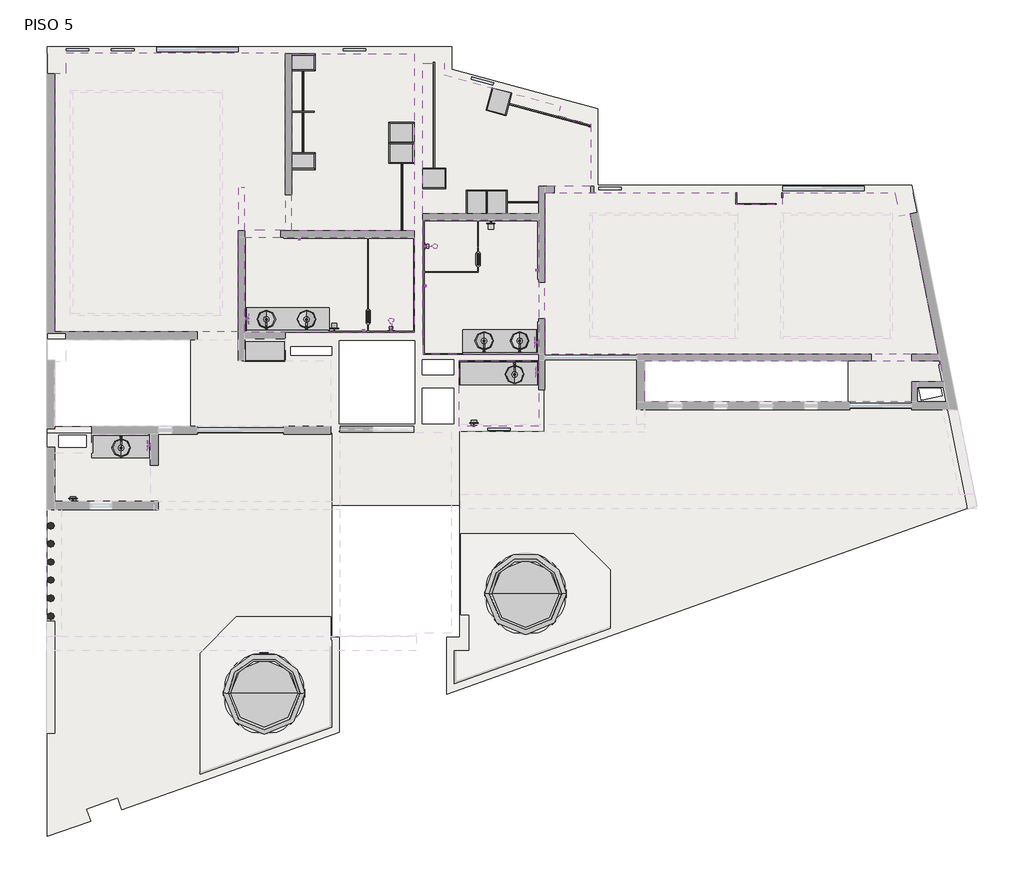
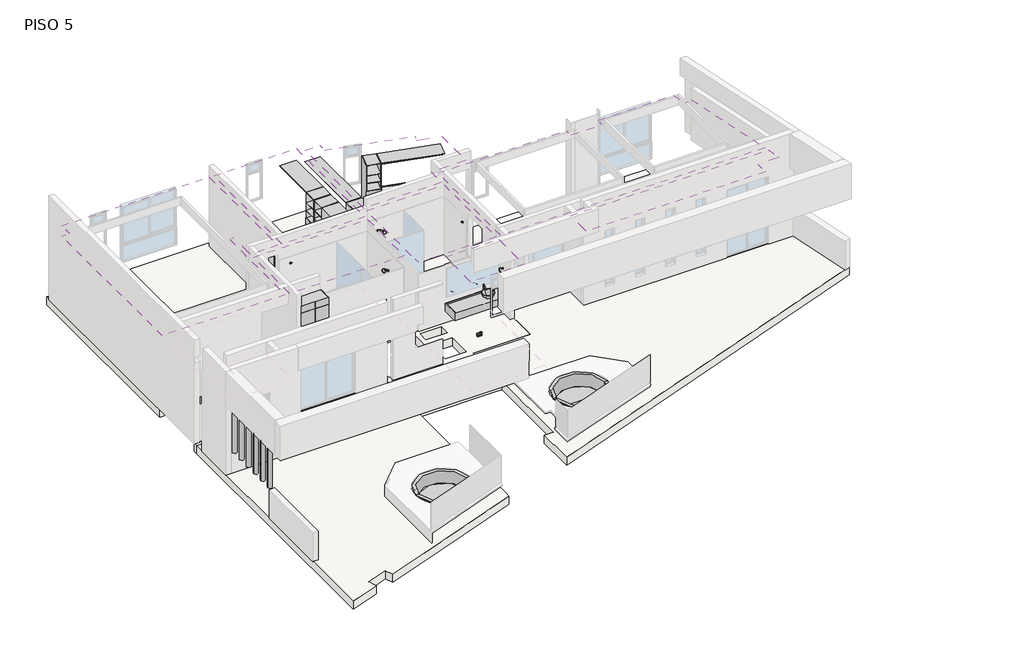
# One storey, part 3 of 3: 28 flow terminals, 14 furniture elements, 8 coverings, 6 columns, 2 slabs.
"""IFC4 building model written with IfcOpenShell, lengths in millimetres."""

from ifc_helpers import new_model, si_unit, point, frame, frame_2d, origin, place, context, project, spatial, polyline, circle_curve, trimmed, segment, composite_curve, outline, extrude, faceted_brep, transform, mapped, element, save
from components import flow_terminal_a2814962, flow_terminal_5cc0e8a1, flow_terminal_a7820e30, flow_terminal_68213279, flow_terminal_4524fc21, flow_terminal_6c50e432, flow_terminal_979eccb3, flow_terminal_bcb3a9d6, flow_terminal_02720d88, flow_terminal_52aebef2, flow_terminal_38a58ad7, flow_terminal_a64c8540, flow_terminal_974a7598, furniture_993b5d31, furniture_96e056cb, furniture_b757dfe6, furniture_a0b73d30, furniture_c1e19565, furniture_78e59265, cl09_7ac340ba, cl10a_closet_4632c41f, cl10b_closet_7e38ed4d, cl10c_closet_ebeeba07, cl11a_closet_d79f7d52, cl11b_closet_23228832, cl11c_closet_27dfa128, cl11d_closet_2c9b1320

model = new_model("IFC4")

# Units and contexts
model_context = context("Model", 3, world=origin())
ifc_project = project(units=[si_unit("LENGTHUNIT", "METRE", prefix="MILLI")], contexts=[model_context])

# Site, building, storey
site = spatial("IfcSite", under=ifc_project)
building = spatial("IfcBuilding", under=site)
storey = spatial("IfcBuildingStorey", under=building, Name="PISO 5", Elevation=15000.0)

# Columns
placement = place(None, origin())
element("IfcColumn", 1, ObjectType="M_Pilar redondo : Diámetro 152 mm", at=placement, inside=storey, context=model_context, shape_type="SweptSolid", body=[
    extrude(outline(composite_curve([segment(trimmed(circle_curve(frame_2d((34053.8589874, 25664.0112971)), 75.0), [point((34128.8589874, 25664.0112971))], [point((33978.8589874, 25664.0112971))], False, "CARTESIAN"), True, "CONTINUOUS"), segment(trimmed(circle_curve(frame_2d((34053.8589874, 25664.0112971)), 75.0), [point((33978.8589874, 25664.0112971))], [point((34053.8589874, 25739.0112971))], False, "CARTESIAN"), True, "CONTINUOUS"), segment(trimmed(circle_curve(frame_2d((34053.8589874, 25664.0112971)), 75.0), [point((34053.8589874, 25739.0112971))], [point((34128.8589874, 25664.0112971))], False, "CARTESIAN"), True, "CONTINUOUS")], self_intersect=False)), frame((0.0, 0.0, 16000.0), z_axis=(0.0, 0.0, 1.0), x_axis=(1.0, 0.0, 0.0)), (0.0, 0.0, 1.0), 1400.0),
])
element("IfcColumn", 2, ObjectType="M_Pilar redondo : Diámetro 152 mm", at=placement, inside=storey, context=model_context, shape_type="SweptSolid", body=[
    extrude(outline(composite_curve([segment(trimmed(circle_curve(frame_2d((34053.8589874, 26064.0112971)), 75.0), [point((34128.8589874, 26064.0112971))], [point((33978.8589874, 26064.0112971))], False, "CARTESIAN"), True, "CONTINUOUS"), segment(trimmed(circle_curve(frame_2d((34053.8589874, 26064.0112971)), 75.0), [point((33978.8589874, 26064.0112971))], [point((34053.8589874, 26139.0112971))], False, "CARTESIAN"), True, "CONTINUOUS"), segment(trimmed(circle_curve(frame_2d((34053.8589874, 26064.0112971)), 75.0), [point((34053.8589874, 26139.0112971))], [point((34128.8589874, 26064.0112971))], False, "CARTESIAN"), True, "CONTINUOUS")], self_intersect=False)), frame((0.0, 0.0, 16000.0), z_axis=(0.0, 0.0, 1.0), x_axis=(1.0, 0.0, 0.0)), (0.0, 0.0, 1.0), 1400.0),
])
element("IfcColumn", 3, ObjectType="M_Pilar redondo : Diámetro 152 mm", at=placement, inside=storey, context=model_context, shape_type="SweptSolid", body=[
    extrude(outline(composite_curve([segment(trimmed(circle_curve(frame_2d((34053.8589874, 26864.0112971)), 75.0), [point((34128.8589874, 26864.0112971))], [point((33978.8589874, 26864.0112971))], False, "CARTESIAN"), True, "CONTINUOUS"), segment(trimmed(circle_curve(frame_2d((34053.8589874, 26864.0112971)), 75.0), [point((33978.8589874, 26864.0112971))], [point((34053.8589874, 26939.0112971))], False, "CARTESIAN"), True, "CONTINUOUS"), segment(trimmed(circle_curve(frame_2d((34053.8589874, 26864.0112971)), 75.0), [point((34053.8589874, 26939.0112971))], [point((34128.8589874, 26864.0112971))], False, "CARTESIAN"), True, "CONTINUOUS")], self_intersect=False)), frame((0.0, 0.0, 16000.0), z_axis=(0.0, 0.0, 1.0), x_axis=(1.0, 0.0, 0.0)), (0.0, 0.0, 1.0), 1400.0),
])
element("IfcColumn", 4, ObjectType="M_Pilar redondo : Diámetro 152 mm", at=placement, inside=storey, context=model_context, shape_type="SweptSolid", body=[
    extrude(outline(composite_curve([segment(trimmed(circle_curve(frame_2d((34053.8589874, 26464.0112971)), 75.0), [point((34128.8589874, 26464.0112971))], [point((33978.8589874, 26464.0112971))], False, "CARTESIAN"), True, "CONTINUOUS"), segment(trimmed(circle_curve(frame_2d((34053.8589874, 26464.0112971)), 75.0), [point((33978.8589874, 26464.0112971))], [point((34053.8589874, 26539.0112971))], False, "CARTESIAN"), True, "CONTINUOUS"), segment(trimmed(circle_curve(frame_2d((34053.8589874, 26464.0112971)), 75.0), [point((34053.8589874, 26539.0112971))], [point((34128.8589874, 26464.0112971))], False, "CARTESIAN"), True, "CONTINUOUS")], self_intersect=False)), frame((0.0, 0.0, 16000.0), z_axis=(0.0, 0.0, 1.0), x_axis=(1.0, 0.0, 0.0)), (0.0, 0.0, 1.0), 1400.0),
])
element("IfcColumn", 5, ObjectType="M_Pilar redondo : Diámetro 152 mm", at=placement, inside=storey, context=model_context, shape_type="SweptSolid", body=[
    extrude(outline(composite_curve([segment(trimmed(circle_curve(frame_2d((34053.8589874, 27264.0112971)), 75.0), [point((34128.8589874, 27264.0112971))], [point((33978.8589874, 27264.0112971))], False, "CARTESIAN"), True, "CONTINUOUS"), segment(trimmed(circle_curve(frame_2d((34053.8589874, 27264.0112971)), 75.0), [point((33978.8589874, 27264.0112971))], [point((34053.8589874, 27339.0112971))], False, "CARTESIAN"), True, "CONTINUOUS"), segment(trimmed(circle_curve(frame_2d((34053.8589874, 27264.0112971)), 75.0), [point((34053.8589874, 27339.0112971))], [point((34128.8589874, 27264.0112971))], False, "CARTESIAN"), True, "CONTINUOUS")], self_intersect=False)), frame((0.0, 0.0, 16000.0), z_axis=(0.0, 0.0, 1.0), x_axis=(1.0, 0.0, 0.0)), (0.0, 0.0, 1.0), 1400.0),
])
element("IfcColumn", 6, ObjectType="M_Pilar redondo : Diámetro 152 mm", at=placement, inside=storey, context=model_context, shape_type="SweptSolid", body=[
    extrude(outline(composite_curve([segment(trimmed(circle_curve(frame_2d((34053.8589874, 27664.0112971)), 75.0), [point((34128.8589874, 27664.0112971))], [point((33978.8589874, 27664.0112971))], False, "CARTESIAN"), True, "CONTINUOUS"), segment(trimmed(circle_curve(frame_2d((34053.8589874, 27664.0112971)), 75.0), [point((33978.8589874, 27664.0112971))], [point((34053.8589874, 27739.0112971))], False, "CARTESIAN"), True, "CONTINUOUS"), segment(trimmed(circle_curve(frame_2d((34053.8589874, 27664.0112971)), 75.0), [point((34053.8589874, 27739.0112971))], [point((34128.8589874, 27664.0112971))], False, "CARTESIAN"), True, "CONTINUOUS")], self_intersect=False)), frame((0.0, 0.0, 16000.0), z_axis=(0.0, 0.0, 1.0), x_axis=(1.0, 0.0, 0.0)), (0.0, 0.0, 1.0), 1400.0),
])

# Coverings
element("IfcCovering", 7, ObjectType="Plafond Tablaroca", at=placement, inside=storey, context=model_context, shape_type="SweptSolid", body=[
    extrude(outline(polyline([(44824.5251366, 31304.0104755), (44824.5251366, 29864.010184), (43074.5059119, 29864.010184), (43074.5059119, 31304.0104755), (44824.5251366, 31304.0104755)])), frame((0.0, 0.0, 17400.0), z_axis=(0.0, 0.0, 1.0), x_axis=(1.0, 0.0, 0.0)), (0.0, 0.0, 1.0), 52.7),
])
element("IfcCovering", 8, ObjectType="Plafond Tablaroca", at=placement, inside=storey, context=model_context, shape_type="SweptSolid", body=[
    extrude(outline(polyline([(43014.5059119, 31444.0104755), (42279.5059119, 31444.0104755), (42279.5059119, 31838.9733508), (42264.5059119, 31838.9733508), (42264.5059119, 34414.0104642), (44824.5251366, 34414.0104642), (44824.5251366, 31444.0104755), (43014.5059119, 31444.0104755)])), frame((0.0, 0.0, 17400.0), z_axis=(0.0, 0.0, 1.0), x_axis=(1.0, 0.0, 0.0)), (0.0, 0.0, 1.0), 52.7),
])
element("IfcCovering", 9, ObjectType="Plafond Tablaroca", at=placement, inside=storey, context=model_context, shape_type="SweptSolid", body=[
    extrude(outline(polyline([(42084.5059119, 31933.9733508), (40329.5059119, 31933.9733508), (39294.5300226, 31933.9733508), (38334.5300269, 31933.9733508), (38334.5300269, 34028.9785701), (42084.5059119, 34028.9785701), (42084.5059119, 31933.9733508)])), frame((0.0, 0.0, 17400.0), z_axis=(0.0, 0.0, 1.0), x_axis=(1.0, 0.0, 0.0)), (0.0, 0.0, 1.0), 52.7),
])
element("IfcCovering", 10, ObjectType="Plafond Tablaroca", at=placement, inside=storey, context=model_context, shape_type="SweptSolid", body=[
    extrude(outline(polyline([(39374.5300226, 36168.9785277), (39374.5300226, 38080.4026232), (42084.5059119, 38080.4026232), (42084.5059119, 34168.9785701), (39374.5300226, 34168.9785701), (39374.5300226, 36168.9785277)])), frame((0.0, 0.0, 17400.0), z_axis=(0.0, 0.0, 1.0), x_axis=(1.0, 0.0, 0.0)), (0.0, 0.0, 1.0), 52.7),
])
element("IfcCovering", 11, ObjectType="Plafond Tablaroca", at=placement, inside=storey, context=model_context, shape_type="SweptSolid", body=[
    extrude(outline(polyline([(45253.4028147, 36725.1514674), (45974.5059119, 36531.2471191), (45974.5059119, 35154.0104642), (44824.5251366, 35154.0104642), (44824.5251366, 34554.0104642), (42264.5059119, 34554.0104642), (42264.5059119, 37875.4026232), (42744.5059119, 37875.4026232), (42744.5059119, 37612.0750171), (45306.6362479, 36923.1191455), (45253.4028147, 36725.1514674)])), frame((0.0, 0.0, 17400.0), z_axis=(0.0, 0.0, 1.0), x_axis=(1.0, 0.0, 0.0)), (0.0, 0.0, 1.0), 52.7),
])
element("IfcCovering", 12, ObjectType="Plafond Tablaroca", at=placement, inside=storey, context=model_context, shape_type="SweptSolid", body=[
    extrude(outline(polyline([(34143.8589874, 37645.4026232), (34398.8589874, 37645.4026232), (34398.8589874, 38100.4026232), (39234.5300226, 38100.4026232), (39234.5300226, 34188.9785701), (38334.5300269, 34188.9785701), (38334.5300269, 35124.0104642), (38194.5300269, 35124.0104642), (38194.5300269, 31948.9733508), (34143.8589874, 31948.9733508), (34143.8589874, 37645.4026232)]), holes=[polyline([(34543.8589874, 37225.4026232), (34543.8589874, 32348.9733508), (37794.5300269, 32348.9733508), (37794.5300269, 37225.4026232), (34543.8589874, 37225.4026232)])]), frame((0.0, 0.0, 17400.0), z_axis=(0.0, 0.0, 1.0), x_axis=(1.0, 0.0, 0.0)), (0.0, 0.0, 1.0), 52.7),
])
element("IfcCovering", 13, ObjectType="Plafond Tablaroca", at=placement, inside=storey, context=model_context, shape_type="SweptSolid", body=[
    extrude(outline(polyline([(47170.8645778, 31304.0104694), (53674.9425613, 31304.0104694), (53767.0755006, 30844.0100923), (53065.8558202, 30844.0100923), (53065.8558202, 30404.0104696), (47170.8645778, 30404.0104696), (47170.8645778, 31304.0104694)])), frame((0.0, 0.0, 17400.0), z_axis=(0.0, 0.0, 1.0), x_axis=(1.0, 0.0, 0.0)), (0.0, 0.0, 1.0), 52.7),
])
element("IfcCovering", 14, ObjectType="Plafond Tablaroca", at=placement, inside=storey, context=model_context, shape_type="SweptSolid", body=[
    extrude(outline(polyline([(53646.9021244, 31444.0104696), (44964.5251366, 31444.0104696), (44964.5251366, 35014.0104642), (49179.4822189, 35014.0104642), (49179.4822189, 34759.0104642), (50214.4822189, 34759.0104642), (50214.4822189, 35014.0104642), (52687.1044459, 35014.0104642), (52788.6250642, 34507.1393817), (53023.9513461, 34554.2726084), (53646.9021244, 31444.0104696)]), holes=[polyline([(46010.7963639, 34514.0104642), (46010.7963639, 31844.0104694), (49170.7726708, 31844.0104694), (49170.7726708, 34514.0104642), (46010.7963639, 34514.0104642)]), polyline([(50223.1917669, 34514.0104642), (50223.1917669, 31838.9733508), (52583.4450839, 31838.9733508), (52583.4450839, 34514.0104642), (50223.1917669, 34514.0104642)])]), frame((0.0, 0.0, 17400.0), z_axis=(0.0, 0.0, 1.0), x_axis=(1.0, 0.0, 0.0)), (0.0, 0.0, 1.0), 52.7),
])

# Flow terminals
flow_terminal_shape = flow_terminal_a2814962(model_context)
element("IfcFlowTerminal", 15, ObjectType="Ovalin sobreponer maia - vitromex : Accesorios_baño", at=placement, inside=storey, context=model_context, shape_type="MappedRepresentation", body=[
    mapped(flow_terminal_shape, transform((44294.5059119, 31001.9733508, 15000.0), x_axis=(0.0, -1.0, 0.0), y_axis=(1.0, 0.0, 0.0), z_axis=(0.0, 0.0, 1.0))),
])
element("IfcFlowTerminal", 16, ObjectType="Ovalin sobreponer maia - vitromex : Accesorios_baño", at=placement, inside=storey, context=model_context, shape_type="MappedRepresentation", body=[
    mapped(flow_terminal_shape, transform((38816.6272071, 32218.9733508, 15000.0), x_axis=(0.0, 1.0, 0.0), y_axis=(-1.0, 0.0, 0.0), z_axis=(0.0, 0.0, 1.0))),
])
element("IfcFlowTerminal", 17, ObjectType="Ovalin sobreponer maia - vitromex : Accesorios_baño", at=placement, inside=storey, context=model_context, shape_type="MappedRepresentation", body=[
    mapped(flow_terminal_shape, transform((35609.194505, 29381.9730579, 15000.0), x_axis=(0.0, -1.0, 0.0), y_axis=(1.0, 0.0, 0.0), z_axis=(0.0, 0.0, 1.0))),
])
element("IfcFlowTerminal", 18, ObjectType="Ovalin sobreponer maia - vitromex : Accesorios_baño", at=placement, inside=storey, context=model_context, shape_type="MappedRepresentation", body=[
    mapped(flow_terminal_shape, transform((43621.6220437, 31743.2959398, 15000.0), x_axis=(0.0, 1.0, 0.0), y_axis=(-1.0, 0.0, 0.0), z_axis=(0.0, 0.0, 1.0))),
])
flow_terminal_2_shape = flow_terminal_5cc0e8a1(model_context)
element("IfcFlowTerminal", 19, ObjectType="monomando lavabo - tubo : monomando lavabo - tubo", at=placement, inside=storey, context=model_context, shape_type="MappedRepresentation", body=[
    mapped(flow_terminal_2_shape, transform((44294.5059119, 31241.9733508, 15000.0), x_axis=(1.0, 0.0, 0.0), y_axis=(0.0, 1.0, 0.0), z_axis=(0.0, 0.0, 1.0))),
])
element("IfcFlowTerminal", 20, ObjectType="monomando lavabo - tubo : monomando lavabo - tubo", at=placement, inside=storey, context=model_context, shape_type="MappedRepresentation", body=[
    mapped(flow_terminal_2_shape, transform((38816.6272071, 31978.9733508, 15000.0), x_axis=(-1.0, 0.0, 0.0), y_axis=(0.0, -1.0, 0.0), z_axis=(0.0, 0.0, 1.0))),
])
element("IfcFlowTerminal", 21, ObjectType="monomando lavabo - tubo : monomando lavabo - tubo", at=placement, inside=storey, context=model_context, shape_type="MappedRepresentation", body=[
    mapped(flow_terminal_2_shape, transform((35609.194505, 29621.9730579, 15000.0), x_axis=(1.0, 0.0, 0.0), y_axis=(0.0, 1.0, 0.0), z_axis=(0.0, 0.0, 1.0))),
])
element("IfcFlowTerminal", 22, ObjectType="monomando lavabo - tubo : monomando lavabo - tubo", at=placement, inside=storey, context=model_context, shape_type="MappedRepresentation", body=[
    mapped(flow_terminal_2_shape, transform((43621.6220437, 31503.2959398, 15000.0), x_axis=(-1.0, 0.0, 0.0), y_axis=(0.0, -1.0, 0.0), z_axis=(0.0, 0.0, 1.0))),
])
flow_terminal_3_shape = flow_terminal_a7820e30(model_context)
element("IfcFlowTerminal", 23, ObjectType="monomando lavabo - tubo : monomando lavabo - tubo", at=placement, inside=storey, context=model_context, shape_type="MappedRepresentation", body=[
    mapped(flow_terminal_3_shape, transform((39702.4090048, 31978.9733508, 15000.0), x_axis=(1.0, 0.0, 0.0), y_axis=(0.0, 1.0, 0.0), z_axis=(0.0, 0.0, 1.0))),
])
element("IfcFlowTerminal", 24, ObjectType="monomando lavabo - tubo : monomando lavabo - tubo", at=placement, inside=storey, context=model_context, shape_type="MappedRepresentation", body=[
    mapped(flow_terminal_3_shape, transform((44407.3848899, 31503.2959398, 15000.0), x_axis=(1.0, 0.0, 0.0), y_axis=(0.0, 1.0, 0.0), z_axis=(0.0, 0.0, 1.0))),
])
flow_terminal_4_shape = flow_terminal_68213279(model_context)
element("IfcFlowTerminal", 25, ObjectType="Ovalin sobreponer maia - vitromex : Accesorios_baño", at=placement, inside=storey, context=model_context, shape_type="MappedRepresentation", body=[
    mapped(flow_terminal_4_shape, transform((39702.4090048, 32218.9733508, 15000.0), x_axis=(0.0, 1.0, 0.0), y_axis=(-1.0, 0.0, 0.0), z_axis=(0.0, 0.0, 1.0))),
])
element("IfcFlowTerminal", 26, ObjectType="Ovalin sobreponer maia - vitromex : Accesorios_baño", at=placement, inside=storey, context=model_context, shape_type="MappedRepresentation", body=[
    mapped(flow_terminal_4_shape, transform((44407.3848899, 31743.2959398, 15000.0), x_axis=(0.0, 1.0, 0.0), y_axis=(-1.0, 0.0, 0.0), z_axis=(0.0, 0.0, 1.0))),
])
flow_terminal_5_shape = flow_terminal_4524fc21(model_context)
element("IfcFlowTerminal", 27, ObjectType="Toallero Dica 1009 : Toallero Dica manos 1009", at=placement, inside=storey, context=model_context, shape_type="MappedRepresentation", body=[
    mapped(flow_terminal_5_shape, transform((36344.5300226, 29309.010184, 16548.657459), x_axis=(0.0, 1.0, 0.0), y_axis=(-1.0, 0.0, 0.0), z_axis=(0.0, 0.0, 1.0))),
])
flow_terminal_6_shape = flow_terminal_6c50e432(model_context)
element("IfcFlowTerminal", 28, ObjectType="Portarrollo Dica 1017 : Portarrollos Dica 1017", at=placement, inside=storey, context=model_context, shape_type="MappedRepresentation", body=[
    mapped(flow_terminal_6_shape, transform((43899.5059119, 34404.0104642, 15502.2787162), x_axis=(-1.0, 0.0, 0.0), y_axis=(0.0, -1.0, 0.0), z_axis=(0.0, 0.0, 1.0))),
])
element("IfcFlowTerminal", 29, ObjectType="Portarrollo Dica 1017 : Portarrollos Dica 1017", at=placement, inside=storey, context=model_context, shape_type="MappedRepresentation", body=[
    mapped(flow_terminal_6_shape, transform((40189.5059119, 31943.9733508, 15502.2787162), x_axis=(1.0, 0.0, 0.0), y_axis=(0.0, 1.0, 0.0), z_axis=(0.0, 0.0, 1.0))),
])
flow_terminal_7_shape = flow_terminal_979eccb3(model_context)
element("IfcFlowTerminal", 30, ObjectType="Monomando Dica 4473.9 : Accesorios_baño", at=placement, inside=storey, context=model_context, shape_type="MappedRepresentation", body=[
    mapped(flow_terminal_7_shape, transform((42289.5059119, 33956.7604642, 15000.0), x_axis=(0.0, -1.0, 0.0), y_axis=(1.0, 0.0, 0.0), z_axis=(0.0, 0.0, 1.0))),
])
element("IfcFlowTerminal", 31, ObjectType="Monomando Dica 4473.9 : Accesorios_baño", at=placement, inside=storey, context=model_context, shape_type="MappedRepresentation", body=[
    mapped(flow_terminal_7_shape, transform((41444.5059119, 31943.9733508, 15000.0), x_axis=(1.0, 0.0, 0.0), y_axis=(0.0, 1.0, 0.0), z_axis=(0.0, 0.0, 1.0))),
])
flow_terminal_8_shape = flow_terminal_bcb3a9d6(model_context)
element("IfcFlowTerminal", 32, ObjectType="Toallero gancho Dica 1006 : Toallero gancho Dica 1006", at=placement, inside=storey, context=model_context, shape_type="MappedRepresentation", body=[
    mapped(flow_terminal_8_shape, transform((44814.5251366, 33179.0113801, 16795.0), x_axis=(0.0, 1.0, 0.0), y_axis=(-1.0, 0.0, 0.0), z_axis=(0.0, 0.0, 1.0))),
])
element("IfcFlowTerminal", 33, ObjectType="Toallero gancho Dica 1006 : Toallero gancho Dica 1006", at=placement, inside=storey, context=model_context, shape_type="MappedRepresentation", body=[
    mapped(flow_terminal_8_shape, transform((42289.5059119, 33083.5104642, 16795.0), x_axis=(0.0, -1.0, 0.0), y_axis=(1.0, 0.0, 0.0), z_axis=(0.0, 0.0, 1.0))),
])
element("IfcFlowTerminal", 34, ObjectType="Toallero gancho Dica 1006 : Toallero gancho Dica 1006", at=placement, inside=storey, context=model_context, shape_type="MappedRepresentation", body=[
    mapped(flow_terminal_8_shape, transform((39669.5059119, 34018.9785701, 16795.0), x_axis=(-1.0, 0.0, 0.0), y_axis=(0.0, -1.0, 0.0), z_axis=(0.0, 0.0, 1.0))),
])
element("IfcFlowTerminal", 35, ObjectType="Toallero gancho Dica 1006 : Toallero gancho Dica 1006", at=placement, inside=storey, context=model_context, shape_type="MappedRepresentation", body=[
    mapped(flow_terminal_8_shape, transform((40839.5059119, 31943.9733508, 16795.0), x_axis=(1.0, 0.0, 0.0), y_axis=(0.0, 1.0, 0.0), z_axis=(0.0, 0.0, 1.0))),
])
flow_terminal_9_shape = flow_terminal_02720d88(model_context)
element("IfcFlowTerminal", 36, ObjectType="Toallero Dica 1009 : Toallero Dica manos 1009", at=placement, inside=storey, context=model_context, shape_type="MappedRepresentation", body=[
    mapped(flow_terminal_9_shape, transform((44814.5251366, 31589.0104755, 16548.657459), x_axis=(0.0, 1.0, 0.0), y_axis=(-1.0, 0.0, 0.0), z_axis=(0.0, 0.0, 1.0))),
])
element("IfcFlowTerminal", 37, ObjectType="Toallero Dica 1009 : Toallero Dica manos 1009", at=placement, inside=storey, context=model_context, shape_type="MappedRepresentation", body=[
    mapped(flow_terminal_9_shape, transform((38344.5300269, 32348.9733508, 16548.657459), x_axis=(0.0, -1.0, 0.0), y_axis=(1.0, 0.0, 0.0), z_axis=(0.0, 0.0, 1.0))),
])
flow_terminal_10_shape = flow_terminal_52aebef2(model_context)
element("IfcFlowTerminal", 38, ObjectType="Regadera : Accesorios_baño", at=placement, inside=storey, context=model_context, shape_type="MappedRepresentation", body=[
    mapped(flow_terminal_10_shape, transform((42289.5059119, 33959.0104642, 15151.7905899), x_axis=(0.0, -1.0, 0.0), y_axis=(1.0, 0.0, 0.0), z_axis=(0.0, 0.0, 1.0))),
])
element("IfcFlowTerminal", 39, ObjectType="Regadera : Accesorios_baño", at=placement, inside=storey, context=model_context, shape_type="MappedRepresentation", body=[
    mapped(flow_terminal_10_shape, transform((41444.5059119, 31943.9733508, 15151.7905899), x_axis=(1.0, 0.0, 0.0), y_axis=(0.0, 1.0, 0.0), z_axis=(0.0, 0.0, 1.0))),
])
flow_terminal_11_shape = flow_terminal_38a58ad7(model_context)
element("IfcFlowTerminal", 40, ObjectType="Portarrollo Dica 1017 : Portarrollos Dica 1017", at=placement, inside=storey, context=model_context, shape_type="MappedRepresentation", body=[
    mapped(flow_terminal_11_shape, transform((34418.8589874, 28111.0432167, 15502.2787162), x_axis=(1.0, 0.0, 0.0), y_axis=(0.0, 1.0, 0.0), z_axis=(0.0, 0.0, 1.0))),
])
flow_terminal_12_shape = flow_terminal_a64c8540(model_context)
element("IfcFlowTerminal", 41, ObjectType="Portarrollo Dica 1017 : Portarrollos Dica 1017", at=placement, inside=storey, context=model_context, shape_type="MappedRepresentation", body=[
    mapped(flow_terminal_12_shape, transform((43269.5059119, 29794.010184, 15502.2787162), x_axis=(1.0, 0.0, 0.0), y_axis=(0.0, 1.0, 0.0), z_axis=(0.0, 0.0, 1.0))),
])
flow_terminal_13_shape = flow_terminal_974a7598(model_context)
element("IfcFlowTerminal", 42, ObjectType="Toallero Dica 1009 : Toallero Dica manos 1009", at=placement, inside=storey, context=model_context, shape_type="MappedRepresentation", body=[
    mapped(flow_terminal_13_shape, transform((44894.5251366, 30929.0104694, 16548.657459), x_axis=(0.0, 1.0, 0.0), y_axis=(-1.0, 0.0, 0.0), z_axis=(0.0, 0.0, 1.0))),
])

# Furniture
furniture_shape = furniture_993b5d31(model_context)
element("IfcFurniture", 43, ObjectType="TINA : TINA", at=placement, inside=storey, context=model_context, shape_type="MappedRepresentation", body=[
    mapped(furniture_shape, transform((0.0, 0.0, 0.0), x_axis=(1.0, 0.0, 0.0), y_axis=(0.0, 1.0, 0.0), z_axis=(0.0, 0.0, 1.0))),
])
furniture_2_shape = furniture_96e056cb(model_context)
element("IfcFurniture", 44, ObjectType="TINA1 : TINA", at=placement, inside=storey, context=model_context, shape_type="MappedRepresentation", body=[
    mapped(furniture_2_shape, transform((0.0, 0.0, 0.0), x_axis=(1.0, 0.0, 0.0), y_axis=(0.0, 1.0, 0.0), z_axis=(0.0, 0.0, 1.0))),
])
furniture_3_shape = furniture_b757dfe6(model_context)
element("IfcFurniture", 45, ObjectType="Mueble colgado 2 cajones al lado - lavabo sobreponer : MB6-mueble baño colgado-2 cajones al lado 165", at=placement, inside=storey, context=model_context, shape_type="MappedRepresentation", body=[
    mapped(furniture_3_shape, transform((43854.5251366, 31454.0104755, 15000.0), x_axis=(1.0, 0.0, 0.0), y_axis=(0.0, 1.0, 0.0), z_axis=(0.0, 0.0, 1.0))),
])
furniture_4_shape = furniture_a0b73d30(model_context)
element("IfcFurniture", 46, ObjectType="Mueble colgado 2 cajones al lado - lavabo sobreponer : MB3b-mueble baño colgado-2 cajones al lado 185", at=placement, inside=storey, context=model_context, shape_type="MappedRepresentation", body=[
    mapped(furniture_4_shape, transform((39154.5300269, 31943.9733508, 15000.0), x_axis=(1.0, 0.0, 0.0), y_axis=(0.0, 1.0, 0.0), z_axis=(0.0, 0.0, 1.0))),
])
furniture_5_shape = furniture_c1e19565(model_context)
element("IfcFurniture", 47, ObjectType="Mueble con faldon sin cajones - lavabo sobreponer : MB8-mueble baño colgado- 1.75cm", at=placement, inside=storey, context=model_context, shape_type="MappedRepresentation", body=[
    mapped(furniture_5_shape, transform((44074.5251366, 31374.0104755, 15000.0), x_axis=(-1.0, 0.0, 0.0), y_axis=(0.0, -1.0, 0.0), z_axis=(0.0, 0.0, 1.0))),
])
furniture_6_shape = furniture_78e59265(model_context)
element("IfcFurniture", 48, ObjectType="Mueble con faldon sin cajones - lavabo sobreponer : MB7-mueble baño colgado- 1.70 cm", at=placement, inside=storey, context=model_context, shape_type="MappedRepresentation", body=[
    mapped(furniture_6_shape, transform((35734.5300226, 29774.010184, 15000.0), x_axis=(-1.0, 0.0, 0.0), y_axis=(0.0, -1.0, 0.0), z_axis=(0.0, 0.0, 1.0))),
])
cl09_shape = cl09_7ac340ba(model_context)
element("IfcFurniture", 49, ObjectType="Closet 5cajones-inf_2puertas-sup : CL09", at=placement, inside=storey, context=model_context, shape_type="MappedRepresentation", body=[
    mapped(cl09_shape, transform((38784.5300269, 31124.0104769, 15000.0), x_axis=(1.0, 0.0, 0.0), y_axis=(0.0, 1.0, 0.0), z_axis=(0.0, 0.0, 1.0))),
])
cl10a_closet_shape = cl10a_closet_4632c41f(model_context)
element("IfcFurniture", 50, ObjectType="Closet 2estantes-2tubos-centro_sin lateral : CL10a-CLOSET", at=placement, inside=storey, context=model_context, shape_type="MappedRepresentation", body=[
    mapped(cl10a_closet_shape, transform((39974.5300226, 37891.7778898, 15000.0), x_axis=(0.0, 1.0, 0.0), y_axis=(-1.0, 0.0, 0.0), z_axis=(0.0, 0.0, 1.0))),
])
cl10b_closet_shape = cl10b_closet_7e38ed4d(model_context)
element("IfcFurniture", 51, ObjectType="Closet 1estantes-1tubos_sin laterales : CL10b-CLOSET", at=placement, inside=storey, context=model_context, shape_type="MappedRepresentation", body=[
    mapped(cl10b_closet_shape, transform((41434.5059119, 35888.9785701, 15000.0), x_axis=(0.0, 1.0, 0.0), y_axis=(-1.0, 0.0, 0.0), z_axis=(0.0, 0.0, 1.0))),
])
cl10c_closet_shape = cl10c_closet_ebeeba07(model_context)
element("IfcFurniture", 52, ObjectType="Closet 1estantes-1tubos_sin laterales : CL10c-CLOSET", at=placement, inside=storey, context=model_context, shape_type="MappedRepresentation", body=[
    mapped(cl10c_closet_shape, transform((41434.5059119, 36338.9785701, 15000.0), x_axis=(0.0, -1.0, 0.0), y_axis=(1.0, 0.0, 0.0), z_axis=(0.0, 0.0, 1.0))),
])
cl11a_closet_shape = cl11a_closet_d79f7d52(model_context)
element("IfcFurniture", 53, ObjectType="Closet 1estantes-1tubos_sin laterales : CL11a-CLOSET", at=placement, inside=storey, context=model_context, shape_type="MappedRepresentation", body=[
    mapped(cl11a_closet_shape, transform((42864.5059119, 35329.0104642, 15000.0), x_axis=(0.0, -1.0, 0.0), y_axis=(1.0, 0.0, 0.0), z_axis=(0.0, 0.0, 1.0))),
])
cl11b_closet_shape = cl11b_closet_23228832(model_context)
element("IfcFurniture", 54, ObjectType="Closet 1estantes-1tubos_sin laterales : CL11b-CLOSET", at=placement, inside=storey, context=model_context, shape_type="MappedRepresentation", body=[
    mapped(cl11b_closet_shape, transform((43454.5059119, 35154.0104642, 15000.0), x_axis=(1.0, 0.0, 0.0), y_axis=(0.0, 1.0, 0.0), z_axis=(0.0, 0.0, 1.0))),
])
cl11c_closet_shape = cl11c_closet_27dfa128(model_context)
element("IfcFurniture", 55, ObjectType="Closet 1estantes-1tubos_sin laterales : CL11c-CLOSET", at=placement, inside=storey, context=model_context, shape_type="MappedRepresentation", body=[
    mapped(cl11c_closet_shape, transform((43904.5059119, 35154.0104642, 15000.0), x_axis=(-1.0, 0.0, 0.0), y_axis=(0.0, -1.0, 0.0), z_axis=(0.0, 0.0, 1.0))),
])
cl11d_closet_shape = cl11d_closet_2c9b1320(model_context)
element("IfcFurniture", 56, ObjectType="Closet 1estantes-1tubos_sin laterales : CL11d-CLOSET", at=placement, inside=storey, context=model_context, shape_type="MappedRepresentation", body=[
    mapped(cl11d_closet_shape, transform((43862.3437361, 36690.1753064, 15000.0), x_axis=(-0.9656959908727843, 0.2596752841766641, 0.0), y_axis=(-0.2596752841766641, -0.9656959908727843, 0.0), z_axis=(0.0, 0.0, 1.0))),
])

# Slabs
element("IfcSlab", 57, ObjectType="Suelo-losa 25cms+ceramica AZOTEA PENT HOUSE", at=placement, inside=storey, context=model_context, shape_type="Brep", body=[
    faceted_brep([(33983.8589874, 20805.7927611, 14720.0), (33983.8589874, 25552.4819737, 14720.0), (33983.8589874, 29274.010184, 14720.0), (33983.8589874, 29704.010184, 14720.0), (40254.5059119, 29704.010184, 14720.0), (40254.5059119, 28111.0432167, 14720.0), (40254.5059119, 25204.0113032, 14720.0), (40424.5059119, 25204.0113032, 14720.0), (40424.5059119, 25134.0112971, 14720.0), (40424.5059119, 23270.7957184, 14720.0), (40424.5059119, 23100.9402233, 14720.0), (37616.2694792, 22100.2151723, 14720.0), (35626.3358888, 21391.0952526, 14720.0), (35532.3463662, 21654.8488197, 14720.0), (34843.9752127, 21409.5453083, 14720.0), (34937.9647353, 21145.7917413, 14720.0), (34233.8589874, 29663.9733508, 14720.0), (34233.8589874, 29394.010184, 14720.0), (34843.8589874, 29394.010184, 14720.0), (34843.8589874, 29663.9733508, 14720.0), (33983.8589874, 29704.010184, 15000.0), (33983.8589874, 29274.010184, 15000.0), (33983.8589874, 28021.0432167, 15000.0), (33983.8589874, 25552.4819737, 15000.0), (33983.8589874, 20805.7927611, 15000.0), (34937.9647353, 21145.7917413, 15000.0), (34843.9752127, 21409.5453083, 15000.0), (35532.3463662, 21654.8488197, 15000.0), (35626.3358888, 21391.0952526, 15000.0), (37616.2694792, 22100.2151723, 15000.0), (40424.5059119, 23100.9402233, 15000.0), (40424.5059119, 23270.7957184, 15000.0), (40424.5059119, 25134.0112971, 15000.0), (40424.5059119, 25204.0113032, 15000.0), (40254.5059119, 25204.0113032, 15000.0), (40254.5059119, 28111.0432167, 15000.0), (40254.5059119, 29704.010184, 15000.0), (34233.8589874, 29394.010184, 15000.0), (34233.8589874, 29663.9733508, 15000.0), (34843.8589874, 29663.9733508, 15000.0), (34843.8589874, 29394.010184, 15000.0)], [[[0, 1, 2, 3, 4, 5, 6, 7, 8, 9, 10, 11, 12, 13, 14, 15], [16, 17, 18, 19]], [[20, 21, 22, 23, 24, 25, 26, 27, 28, 29, 30, 31, 32, 33, 34, 35, 36], [37, 38, 39, 40]], [[3, 2, 1, 0, 24, 23, 22, 21, 20]], [[10, 9, 8, 7, 33, 32, 31, 30]], [[12, 11, 10, 30, 29, 28]], [[13, 12, 28, 27]], [[14, 13, 27, 26]], [[15, 14, 26, 25]], [[0, 15, 25, 24]], [[4, 3, 20, 36]], [[6, 5, 4, 36, 35, 34]], [[7, 6, 34, 33]], [[16, 38, 37, 17]], [[17, 37, 40, 18]], [[18, 40, 39, 19]], [[38, 16, 19, 39]]]),
    faceted_brep([(54478.0509778, 28108.9710423, 14720.0), (54297.1864274, 28044.5193158, 14720.0), (42802.6275078, 23948.3923208, 14720.0), (42802.6275078, 24118.2478159, 14720.0), (42802.6275078, 25204.0113032, 14720.0), (43089.5059119, 25204.0113032, 14720.0), (43089.5059119, 28111.0432167, 14720.0), (43089.5059119, 29739.010184, 14720.0), (44949.5251366, 29739.010184, 14720.0), (44949.5251366, 31319.0104694, 14720.0), (47010.8645778, 31319.0104694, 14720.0), (47010.8645778, 30244.0104696, 14720.0), (54050.4264196, 30244.0104696, 14720.0), (42802.6275078, 23948.3923208, 15000.0), (54297.1864274, 28044.5193158, 15000.0), (54478.0509778, 28108.9710423, 15000.0), (54050.4264196, 30244.0104696, 15000.0), (47010.8645778, 30244.0104696, 15000.0), (47010.8645778, 31319.0104694, 15000.0), (44949.5251366, 31319.0104694, 15000.0), (44949.5251366, 29739.010184, 15000.0), (43089.5059119, 29739.010184, 15000.0), (43089.5059119, 28111.0432167, 15000.0), (43089.5059119, 25204.0113032, 15000.0), (42802.6275078, 25204.0113032, 15000.0), (42802.6275078, 24118.2478159, 15000.0)], [[[0, 1, 2, 3, 4, 5, 6, 7, 8, 9, 10, 11, 12]], [[13, 14, 15, 16, 17, 18, 19, 20, 21, 22, 23, 24, 25]], [[2, 1, 0, 15, 14, 13]], [[4, 3, 2, 13, 25, 24]], [[5, 4, 24, 23]], [[7, 6, 5, 23, 22, 21]], [[8, 7, 21, 20]], [[9, 8, 20, 19]], [[10, 9, 19, 18]], [[11, 10, 18, 17]], [[12, 11, 17, 16]], [[0, 12, 16, 15]]]),
])
element("IfcSlab", 58, ObjectType="Suelo-losa 25cms+ceramica PB", at=placement, inside=storey, context=model_context, shape_type="Brep", body=[
    faceted_brep([(33983.8589874, 38240.4026232, 14720.0), (34383.8589874, 38240.4026232, 14720.0), (42104.5059119, 38240.4026232, 14720.0), (42904.5059119, 38240.4026232, 14720.0), (42904.5059119, 37755.4451417, 14720.0), (42904.5059119, 37734.7346902, 14720.0), (45362.6697333, 37073.7353748, 14720.0), (46134.5059119, 36866.1889203, 14720.0), (46134.5059119, 35194.0104642, 14720.0), (46134.5059119, 35174.0104642, 14720.0), (49194.4822189, 35174.0104642, 14720.0), (50194.4822189, 35174.0104642, 14720.0), (53063.0024673, 35174.0104642, 14720.0), (53180.835534, 34585.6947595, 14720.0), (53846.0028523, 31264.654321, 14720.0), (54050.4264196, 30244.0104696, 14720.0), (47010.8645778, 30244.0104696, 14720.0), (47010.8645778, 31319.0104694, 14720.0), (44949.5251366, 31319.0104694, 14720.0), (44949.5251366, 29739.010184, 14720.0), (43089.5059119, 29739.010184, 14720.0), (43089.5059119, 28111.0432167, 14720.0), (42919.5059119, 28111.0432167, 14720.0), (40424.5059119, 28111.0432167, 14720.0), (40254.5059119, 28111.0432167, 14720.0), (40254.5059119, 29704.010184, 14720.0), (33983.8589874, 29704.010184, 14720.0), (33983.8589874, 29850.9165883, 14720.0), (37143.8589874, 29850.9165883, 14720.0), (37143.8589874, 31768.9733508, 14720.0), (37143.8589874, 31795.8797551, 14720.0), (34383.8589874, 31795.8797551, 14720.0), (33983.8589874, 31795.8797551, 14720.0), (33983.8589874, 31913.9733508, 14720.0), (33983.8589874, 37640.4026232, 14720.0), (40424.5059119, 31743.9733508, 14720.0), (40424.5059119, 29913.9733508, 14720.0), (42089.5059119, 29913.9733508, 14720.0), (42089.5059119, 31743.9733508, 14720.0), (53212.691844, 30700.2114384, 14720.0), (53265.5912187, 30436.0959933, 14720.0), (53738.0459863, 30530.723408, 14720.0), (53704.0986541, 30699.0100923, 14720.0), (39354.5300226, 31613.9733508, 14720.0), (39354.5300226, 31424.0104769, 14720.0), (40254.5059119, 31424.0104769, 14720.0), (40254.5059119, 31613.9733508, 14720.0), (42259.5059119, 30699.0100923, 14720.0), (42259.5059119, 29913.9733508, 14720.0), (42954.5059119, 29913.9733508, 14720.0), (42954.5059119, 30699.0100923, 14720.0), (42259.5059119, 31324.0104755, 14720.0), (42259.5059119, 30999.0100923, 14720.0), (42954.5059119, 30999.0100923, 14720.0), (42954.5059119, 31304.0104755, 14720.0), (42954.5059119, 31324.0104755, 14720.0), (51650.8645778, 31330.9168739, 14720.0), (50074.4822189, 31330.9168739, 14720.0), (47170.8645778, 31330.9168739, 14720.0), (47170.8645778, 31304.0104696, 14720.0), (47170.8645778, 30404.0104696, 14720.0), (51650.8645778, 30404.0104696, 14720.0), (42904.5059119, 38240.4026232, 15000.0), (42104.5059119, 38240.4026232, 15000.0), (34383.8589874, 38240.4026232, 15000.0), (33983.8589874, 38240.4026232, 15000.0), (33983.8589874, 38080.4026232, 15000.0), (33983.8589874, 31795.8797551, 15000.0), (34383.8589874, 31795.8797551, 15000.0), (37143.8589874, 31795.8797551, 15000.0), (37143.8589874, 31768.9733508, 15000.0), (37143.8589874, 29850.9165883, 15000.0), (33983.8589874, 29850.9165883, 15000.0), (33983.8589874, 29704.010184, 15000.0), (40254.5059119, 29704.010184, 15000.0), (40254.5059119, 28111.0432167, 15000.0), (40424.5059119, 28111.0432167, 15000.0), (42919.5059119, 28111.0432167, 15000.0), (43089.5059119, 28111.0432167, 15000.0), (43089.5059119, 29739.010184, 15000.0), (44949.5251366, 29739.010184, 15000.0), (44949.5251366, 31319.0104694, 15000.0), (47010.8645778, 31319.0104694, 15000.0), (47010.8645778, 30244.0104696, 15000.0), (54050.4264196, 30244.0104696, 15000.0), (53846.0028523, 31264.654321, 15000.0), (53180.835534, 34585.6947595, 15000.0), (53063.0024673, 35174.0104642, 15000.0), (50194.4822189, 35174.0104642, 15000.0), (49194.4822189, 35174.0104642, 15000.0), (46134.5059119, 35174.0104642, 15000.0), (46134.5059119, 35194.0104642, 15000.0), (46134.5059119, 36866.1889203, 15000.0), (45362.6697333, 37073.7353748, 15000.0), (42904.5059119, 37734.7346902, 15000.0), (42904.5059119, 37755.4451417, 15000.0), (40424.5059119, 29913.9733508, 15000.0), (40424.5059119, 31743.9733508, 15000.0), (42089.5059119, 31743.9733508, 15000.0), (42089.5059119, 29913.9733508, 15000.0), (53265.5912187, 30436.0959933, 15000.0), (53212.691844, 30700.2114384, 15000.0), (53704.0986541, 30699.0100923, 15000.0), (53738.0459863, 30530.723408, 15000.0), (39354.5300226, 31424.0104769, 15000.0), (39354.5300226, 31613.9733508, 15000.0), (40254.5059119, 31613.9733508, 15000.0), (40254.5059119, 31424.0104769, 15000.0), (42259.5059119, 29913.9733508, 15000.0), (42259.5059119, 30699.0100923, 15000.0), (42954.5059119, 30699.0100923, 15000.0), (42954.5059119, 29913.9733508, 15000.0), (42259.5059119, 30999.0100923, 15000.0), (42259.5059119, 31324.0104755, 15000.0), (42954.5059119, 31324.0104755, 15000.0), (42954.5059119, 31304.0104755, 15000.0), (42954.5059119, 30999.0100923, 15000.0), (47170.8645778, 31330.9168739, 15000.0), (50074.4822189, 31330.9168739, 15000.0), (51650.8645778, 31330.9168739, 15000.0), (51650.8645778, 30404.0104696, 15000.0), (47170.8645778, 30404.0104696, 15000.0), (47170.8645778, 31304.0104696, 15000.0)], [[[0, 1, 2, 3, 4, 5, 6, 7, 8, 9, 10, 11, 12, 13, 14, 15, 16, 17, 18, 19, 20, 21, 22, 23, 24, 25, 26, 27, 28, 29, 30, 31, 32, 33, 34], [35, 36, 37, 38], [39, 40, 41, 42], [43, 44, 45, 46], [47, 48, 49, 50], [51, 52, 53, 54, 55], [56, 57, 58, 59, 60, 61]], [[62, 63, 64, 65, 66, 67, 68, 69, 70, 71, 72, 73, 74, 75, 76, 77, 78, 79, 80, 81, 82, 83, 84, 85, 86, 87, 88, 89, 90, 91, 92, 93, 94, 95], [96, 97, 98, 99], [100, 101, 102, 103], [104, 105, 106, 107], [108, 109, 110, 111], [112, 113, 114, 115, 116], [117, 118, 119, 120, 121, 122]], [[27, 26, 73, 72]], [[65, 0, 34, 33, 32, 67, 66]], [[3, 2, 1, 0, 65, 64, 63, 62]], [[5, 4, 3, 62, 95, 94]], [[7, 6, 5, 94, 93, 92]], [[9, 8, 7, 92, 91, 90]], [[12, 11, 10, 9, 90, 89, 88, 87]], [[15, 14, 13, 12, 87, 86, 85, 84]], [[30, 69, 68, 67, 32, 31]], [[71, 28, 27, 72]], [[69, 30, 29, 28, 71, 70]], [[56, 119, 118, 117, 58, 57]], [[58, 117, 122, 121, 60, 59]], [[60, 121, 120, 61]], [[119, 56, 61, 120]], [[35, 97, 96, 36]], [[36, 96, 99, 37]], [[37, 99, 98, 38]], [[97, 35, 38, 98]], [[39, 101, 100, 40]], [[40, 100, 103, 41]], [[41, 103, 102, 42]], [[101, 39, 42, 102]], [[43, 105, 104, 44]], [[44, 104, 107, 45]], [[45, 107, 106, 46]], [[105, 43, 46, 106]], [[47, 109, 108, 48]], [[48, 108, 111, 49]], [[49, 111, 110, 50]], [[109, 47, 50, 110]], [[51, 113, 112, 52]], [[52, 112, 116, 53]], [[53, 116, 115, 114, 55, 54]], [[113, 51, 55, 114]], [[16, 15, 84, 83]], [[17, 16, 83, 82]], [[18, 17, 82, 81]], [[19, 18, 81, 80]], [[20, 19, 80, 79]], [[21, 20, 79, 78]], [[21, 78, 77, 76, 75, 24, 23, 22]], [[25, 24, 75, 74]], [[26, 25, 74, 73]]]),
])

save(model, "model.ifc")
